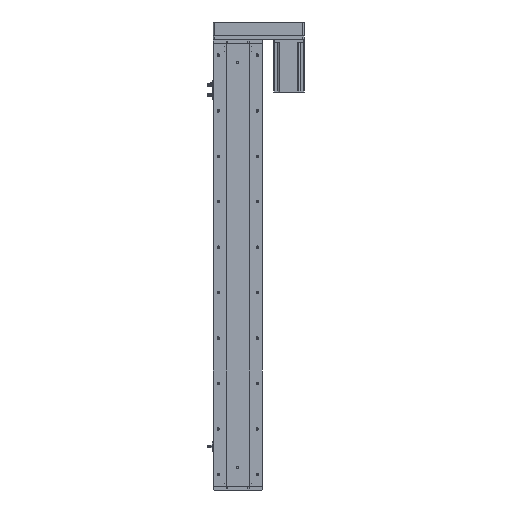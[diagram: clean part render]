
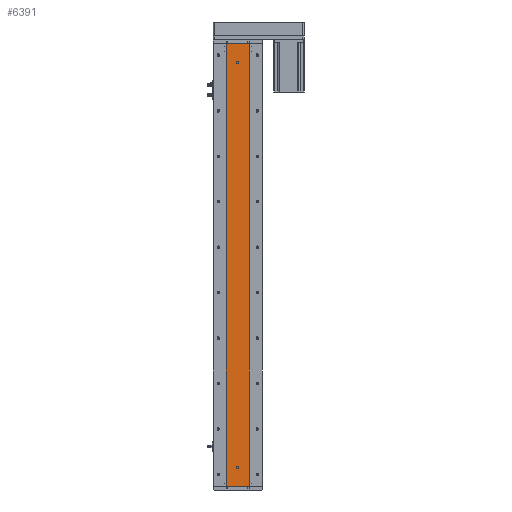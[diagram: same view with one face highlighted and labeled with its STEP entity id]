
A CAD part, left-side view. The second image highlights one B-rep face of the part: STEP entity #6391.
In plain terms, the highlighted planar face has unit normal (-1, 0, 0).
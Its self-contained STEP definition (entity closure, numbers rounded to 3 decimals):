
#807 = CARTESIAN_POINT ( 'NONE',  ( -24.994, -29.785, 0. ) ) ;
#2635 = ORIENTED_EDGE ( 'NONE', *, *, #39218, .F. ) ;
#3128 = ORIENTED_EDGE ( 'NONE', *, *, #6140, .F. ) ;
#4891 = LINE ( 'NONE', #27905, #33703 ) ;
#5419 = CARTESIAN_POINT ( 'NONE',  ( -24.994, 29.785, 1169. ) ) ;
#5758 = VERTEX_POINT ( 'NONE', #807 ) ;
#5812 = CARTESIAN_POINT ( 'NONE',  ( -24.994, 29.785, 1169. ) ) ;
#5907 = CARTESIAN_POINT ( 'NONE',  ( -24.994, 0., 50. ) ) ;
#6054 = DIRECTION ( 'NONE',  ( -1., 0., 0. ) ) ;
#6140 = EDGE_CURVE ( 'NONE', #34383, #27256, #48291, .T. ) ;
#6391 = ADVANCED_FACE ( 'NONE', ( #15270, #34060, #44123 ), #43338, .F. ) ;
#6600 = CARTESIAN_POINT ( 'NONE',  ( -24.994, 29.785, 0. ) ) ;
#6885 = AXIS2_PLACEMENT_3D ( 'NONE', #21818, #48179, #25612 ) ;
#7331 = VERTEX_POINT ( 'NONE', #23910 ) ;
#9201 = ORIENTED_EDGE ( 'NONE', *, *, #37859, .F. ) ;
#9714 = DIRECTION ( 'NONE',  ( 0., 0., 1. ) ) ;
#11149 = CARTESIAN_POINT ( 'NONE',  ( -24.994, 0., 1119. ) ) ;
#11462 = DIRECTION ( 'NONE',  ( 0., -1., 0. ) ) ;
#11782 = EDGE_LOOP ( 'NONE', ( #2635, #23229 ) ) ;
#12690 = EDGE_CURVE ( 'NONE', #43509, #40625, #33349, .T. ) ;
#13233 = VERTEX_POINT ( 'NONE', #33697 ) ;
#13659 = AXIS2_PLACEMENT_3D ( 'NONE', #5907, #32200, #9714 ) ;
#14671 = VERTEX_POINT ( 'NONE', #6600 ) ;
#14919 = DIRECTION ( 'NONE',  ( 0., 0., 1. ) ) ;
#15270 = FACE_BOUND ( 'NONE', #11782, .T. ) ;
#15389 = LINE ( 'NONE', #22587, #46607 ) ;
#15936 = LINE ( 'NONE', #5419, #24760 ) ;
#16375 = AXIS2_PLACEMENT_3D ( 'NONE', #11149, #37440, #14919 ) ;
#17171 = CARTESIAN_POINT ( 'NONE',  ( -24.994, 29.785, 1169. ) ) ;
#18256 = CIRCLE ( 'NONE', #6885, 3. ) ;
#19027 = CIRCLE ( 'NONE', #16375, 3. ) ;
#20522 = ORIENTED_EDGE ( 'NONE', *, *, #24879, .F. ) ;
#20948 = DIRECTION ( 'NONE',  ( 0., 0., -1. ) ) ;
#21818 = CARTESIAN_POINT ( 'NONE',  ( -24.994, 0., 50. ) ) ;
#22587 = CARTESIAN_POINT ( 'NONE',  ( -24.994, -29.785, 1169. ) ) ;
#22972 = AXIS2_PLACEMENT_3D ( 'NONE', #17171, #43504, #20948 ) ;
#23229 = ORIENTED_EDGE ( 'NONE', *, *, #12690, .F. ) ;
#23910 = CARTESIAN_POINT ( 'NONE',  ( -24.994, 0., 53. ) ) ;
#24109 = DIRECTION ( 'NONE',  ( 0., -1., 0. ) ) ;
#24180 = CIRCLE ( 'NONE', #13659, 3. ) ;
#24760 = VECTOR ( 'NONE', #39279, 1000. ) ;
#24879 = EDGE_CURVE ( 'NONE', #27256, #5758, #15389, .T. ) ;
#25612 = DIRECTION ( 'NONE',  ( 0., 0., 1. ) ) ;
#27256 = VERTEX_POINT ( 'NONE', #35488 ) ;
#27905 = CARTESIAN_POINT ( 'NONE',  ( -24.994, 29.785, 0. ) ) ;
#28322 = AXIS2_PLACEMENT_3D ( 'NONE', #28596, #6054, #32337 ) ;
#28596 = CARTESIAN_POINT ( 'NONE',  ( -24.994, 0., 1119. ) ) ;
#28957 = EDGE_LOOP ( 'NONE', ( #34127, #20522, #3128, #41006 ) ) ;
#30583 = CARTESIAN_POINT ( 'NONE',  ( -24.994, 0., 1116. ) ) ;
#31580 = EDGE_LOOP ( 'NONE', ( #37264, #9201 ) ) ;
#32200 = DIRECTION ( 'NONE',  ( -1., 0., 0. ) ) ;
#32337 = DIRECTION ( 'NONE',  ( 0., 0., 1. ) ) ;
#33306 = EDGE_CURVE ( 'NONE', #7331, #13233, #24180, .T. ) ;
#33341 = CARTESIAN_POINT ( 'NONE',  ( -24.994, 0., 1122. ) ) ;
#33349 = CIRCLE ( 'NONE', #28322, 3. ) ;
#33697 = CARTESIAN_POINT ( 'NONE',  ( -24.994, 0., 47. ) ) ;
#33703 = VECTOR ( 'NONE', #24109, 1000. ) ;
#33938 = CARTESIAN_POINT ( 'NONE',  ( -24.994, 29.785, 1169. ) ) ;
#34060 = FACE_BOUND ( 'NONE', #31580, .T. ) ;
#34127 = ORIENTED_EDGE ( 'NONE', *, *, #36484, .T. ) ;
#34383 = VERTEX_POINT ( 'NONE', #5812 ) ;
#35488 = CARTESIAN_POINT ( 'NONE',  ( -24.994, -29.785, 1169. ) ) ;
#36484 = EDGE_CURVE ( 'NONE', #14671, #5758, #4891, .T. ) ;
#37264 = ORIENTED_EDGE ( 'NONE', *, *, #33306, .F. ) ;
#37440 = DIRECTION ( 'NONE',  ( -1., 0., 0. ) ) ;
#37543 = DIRECTION ( 'NONE',  ( 0., 0., -1. ) ) ;
#37680 = EDGE_CURVE ( 'NONE', #34383, #14671, #15936, .T. ) ;
#37859 = EDGE_CURVE ( 'NONE', #13233, #7331, #18256, .T. ) ;
#39218 = EDGE_CURVE ( 'NONE', #40625, #43509, #19027, .T. ) ;
#39279 = DIRECTION ( 'NONE',  ( 0., 0., -1. ) ) ;
#39410 = VECTOR ( 'NONE', #11462, 1000. ) ;
#40625 = VERTEX_POINT ( 'NONE', #33341 ) ;
#41006 = ORIENTED_EDGE ( 'NONE', *, *, #37680, .T. ) ;
#43338 = PLANE ( 'NONE',  #22972 ) ;
#43504 = DIRECTION ( 'NONE',  ( 1., 0., 0. ) ) ;
#43509 = VERTEX_POINT ( 'NONE', #30583 ) ;
#44123 = FACE_OUTER_BOUND ( 'NONE', #28957, .T. ) ;
#46607 = VECTOR ( 'NONE', #37543, 1000. ) ;
#48179 = DIRECTION ( 'NONE',  ( -1., 0., 0. ) ) ;
#48291 = LINE ( 'NONE', #33938, #39410 ) ;
